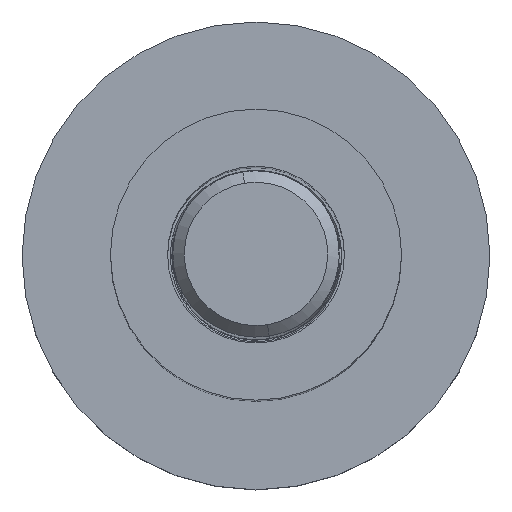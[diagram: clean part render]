
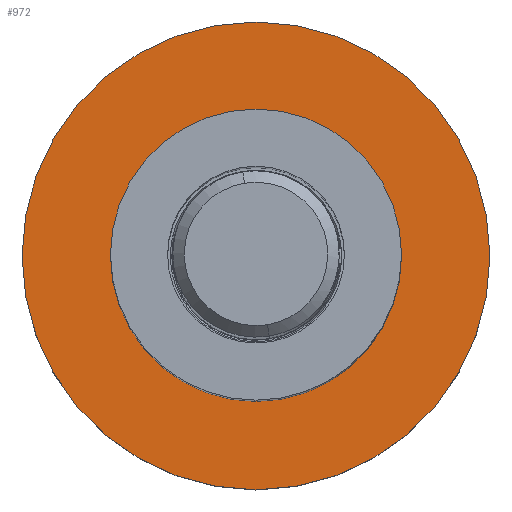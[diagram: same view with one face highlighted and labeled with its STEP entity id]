
A CAD part, top view. The second image highlights one B-rep face of the part: STEP entity #972.
In plain terms, the highlighted planar face has unit normal (0, 0, 1).
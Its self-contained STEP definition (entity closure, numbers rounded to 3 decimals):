
#750=CARTESIAN_POINT('Vertex',(22.5,0.,5.)) ;
#753=CARTESIAN_POINT('Axis2P3D Location',(0.,0.,5.)) ;
#757=CARTESIAN_POINT('Vertex',(-22.5,0.,5.)) ;
#777=CARTESIAN_POINT('Axis2P3D Location',(0.,0.,5.)) ;
#945=CARTESIAN_POINT('Axis2P3D Location',(0.,0.,5.)) ;
#954=CARTESIAN_POINT('Axis2P3D Location',(0.,0.,5.)) ;
#958=CARTESIAN_POINT('Vertex',(-14.,0.,5.)) ;
#960=CARTESIAN_POINT('Vertex',(14.,0.,5.)) ;
#963=CARTESIAN_POINT('Axis2P3D Location',(0.,0.,5.)) ;
#754=DIRECTION('Axis2P3D Direction',(0.,0.,-1.)) ;
#778=DIRECTION('Axis2P3D Direction',(0.,0.,-1.)) ;
#946=DIRECTION('Axis2P3D Direction',(0.,0.,1.)) ;
#947=DIRECTION('Axis2P3D XDirection',(1.,0.,0.)) ;
#955=DIRECTION('Axis2P3D Direction',(0.,0.,1.)) ;
#964=DIRECTION('Axis2P3D Direction',(0.,0.,1.)) ;
#755=AXIS2_PLACEMENT_3D('Circle Axis2P3D',#753,#754,$) ;
#779=AXIS2_PLACEMENT_3D('Circle Axis2P3D',#777,#778,$) ;
#948=AXIS2_PLACEMENT_3D('Plane Axis2P3D',#945,#946,#947) ;
#956=AXIS2_PLACEMENT_3D('Circle Axis2P3D',#954,#955,$) ;
#965=AXIS2_PLACEMENT_3D('Circle Axis2P3D',#963,#964,$) ;
#951=ORIENTED_EDGE('',*,*,#759,.T.) ;
#952=ORIENTED_EDGE('',*,*,#781,.T.) ;
#969=ORIENTED_EDGE('',*,*,#962,.F.) ;
#970=ORIENTED_EDGE('',*,*,#967,.F.) ;
#971=FACE_BOUND('',#968,.T.) ;
#972=ADVANCED_FACE('NONE',(#953,#971),#949,.T.) ;
#756=CIRCLE('generated circle',#755,22.5) ;
#780=CIRCLE('generated circle',#779,22.5) ;
#957=CIRCLE('generated circle',#956,14.) ;
#966=CIRCLE('generated circle',#965,14.) ;
#759=EDGE_CURVE('',#758,#751,#756,.F.) ;
#781=EDGE_CURVE('',#751,#758,#780,.F.) ;
#962=EDGE_CURVE('',#959,#961,#957,.T.) ;
#967=EDGE_CURVE('',#961,#959,#966,.T.) ;
#950=EDGE_LOOP('',(#951,#952)) ;
#968=EDGE_LOOP('',(#969,#970)) ;
#953=FACE_OUTER_BOUND('',#950,.T.) ;
#949=PLANE('Plane',#948) ;
#751=VERTEX_POINT('',#750) ;
#758=VERTEX_POINT('',#757) ;
#959=VERTEX_POINT('',#958) ;
#961=VERTEX_POINT('',#960) ;
